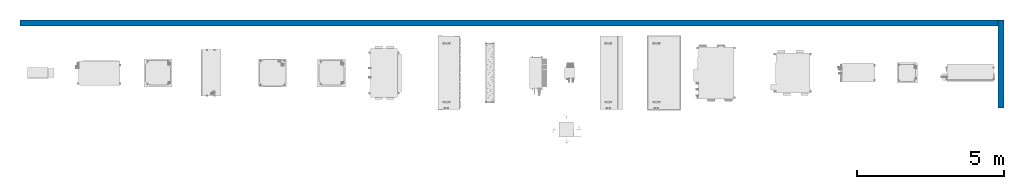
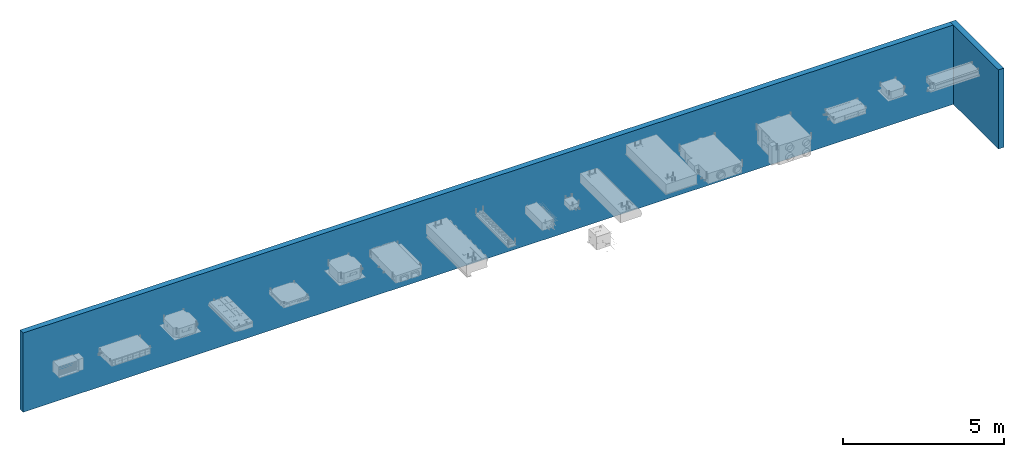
# One storey, part 1 of 5: 2 walls.
"""IFC2X3 building model written with IfcOpenShell, lengths in millimetres."""

from ifc_helpers import new_model, entity, si_unit, converted_unit, derived_unit, direction, frame, frame_2d, origin, place, context, subcontext, project, spatial, rectangle, extrude, material, layer, layer_set, layer_usage, type_object, element, save


model = new_model("IFC2X3")

# Units and contexts
model_context = context("Model", 3, precision=0.01, world=origin(), true_north=direction((6.12303176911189e-17, 1.0)))
body_context = subcontext(model_context, "Body", "Model", "MODEL_VIEW")
ifc_project = project(units=[si_unit("LENGTHUNIT", "METRE", prefix="MILLI"), si_unit("AREAUNIT", "SQUARE_METRE"), si_unit("VOLUMEUNIT", "CUBIC_METRE"), converted_unit("PLANEANGLEUNIT", "DEGREE", entity("IfcRatioMeasure", 0.0174532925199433), si_unit("PLANEANGLEUNIT", "RADIAN"), dimensions=[0, 0, 0, 0, 0, 0, 0]), si_unit("MASSUNIT", "GRAM", prefix="KILO"), derived_unit("MASSDENSITYUNIT", [(si_unit("MASSUNIT", "GRAM", prefix="KILO"), 1), (si_unit("LENGTHUNIT", "METRE"), -3)]), si_unit("TIMEUNIT", "SECOND"), si_unit("FREQUENCYUNIT", "HERTZ"), si_unit("THERMODYNAMICTEMPERATUREUNIT", "DEGREE_CELSIUS"), derived_unit("THERMALTRANSMITTANCEUNIT", [(si_unit("MASSUNIT", "GRAM", prefix="KILO"), 1), (si_unit("THERMODYNAMICTEMPERATUREUNIT", "KELVIN"), -1), (si_unit("TIMEUNIT", "SECOND"), -3)]), derived_unit("VOLUMETRICFLOWRATEUNIT", [(si_unit("LENGTHUNIT", "METRE"), 3), (si_unit("TIMEUNIT", "SECOND"), -1)]), si_unit("ELECTRICCURRENTUNIT", "AMPERE"), si_unit("ELECTRICVOLTAGEUNIT", "VOLT"), si_unit("POWERUNIT", "WATT"), si_unit("FORCEUNIT", "NEWTON", prefix="KILO"), si_unit("ILLUMINANCEUNIT", "LUX"), si_unit("LUMINOUSFLUXUNIT", "LUMEN"), si_unit("LUMINOUSINTENSITYUNIT", "CANDELA"), derived_unit("USERDEFINED", [(si_unit("MASSUNIT", "GRAM", prefix="KILO"), -1), (si_unit("LENGTHUNIT", "METRE"), -2), (si_unit("TIMEUNIT", "SECOND"), 3), (si_unit("LUMINOUSFLUXUNIT", "LUMEN"), 1)]), derived_unit("LINEARVELOCITYUNIT", [(si_unit("LENGTHUNIT", "METRE"), 1), (si_unit("TIMEUNIT", "SECOND"), -1)]), si_unit("PRESSUREUNIT", "PASCAL"), derived_unit("USERDEFINED", [(si_unit("LENGTHUNIT", "METRE"), -2), (si_unit("MASSUNIT", "GRAM", prefix="KILO"), 1), (si_unit("TIMEUNIT", "SECOND"), -2)])], contexts=[model_context])

# Site, building, storey
site_placement = place(None, origin())
site = spatial("IfcSite", under=ifc_project, at=site_placement, Name="Default", CompositionType="ELEMENT")
building_placement = place(site_placement, origin())
building = spatial("IfcBuilding", under=site, at=building_placement, CompositionType="ELEMENT")
storey_placement = place(building_placement, origin())
storey = spatial("IfcBuildingStorey", under=building, at=storey_placement, Name="Level 1", CompositionType="ELEMENT", Elevation=0.0)

# Walls
ifc_material = material(Name="RSen_x_rgb 192 192 192 T00 silver_gen")
ifc_layer = layer(ifc_material, 200.0)
ifc_layer_set = layer_set([ifc_layer], Name="Basic Wall:Wall 1")
ifc_layer_usage_1 = layer_usage(ifc_layer_set, "AXIS2", "NEGATIVE", 100.0)
wall_type = type_object("IfcWallType", Name="Basic Wall:Wall 1", PredefinedType="STANDARD", material=ifc_layer_set)
wall_1_placement = place(storey_placement, frame((24983.3783625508, -13920.0150037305, 0.0), z_axis=(0.0, 0.0, 1.0), x_axis=(0.0, -1.0, 0.0)))
element("IfcWallStandardCase", 1, at=wall_1_placement, inside=storey, type_object=wall_type, material=ifc_layer_usage_1, Name="Basic Wall:Wall 1", ObjectType="Basic Wall:Wall 1:1557", context=body_context, shape_type="SweptSolid", body=[
    extrude(rectangle(XDim=3000.0, YDim=199.999999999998, at=frame_2d((1500.0, -2.48689957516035e-13), x_axis=(-1.0, 0.0))), origin(), (0.0, 0.0, 1.0), 3000.0),
])
ifc_layer_usage_2 = layer_usage(ifc_layer_set, "AXIS2", "NEGATIVE", 100.0)
wall_2_placement = place(storey_placement, frame((24883.3783625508, -14020.0150037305, 0.0), z_axis=(0.0, 0.0, 1.0), x_axis=(-1.0, 0.0, 0.0)))
element("IfcWallStandardCase", 2, at=wall_2_placement, inside=storey, type_object=wall_type, material=ifc_layer_usage_2, Name="Basic Wall:Wall 1", ObjectType="Basic Wall:Wall 1:1557", context=body_context, shape_type="SweptSolid", body=[
    extrude(rectangle(XDim=33300.0, YDim=199.999999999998, at=frame_2d((16650.0, -1.70530256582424e-13), x_axis=(-1.0, 0.0))), origin(), (0.0, 0.0, 1.0), 3000.0),
])

save(model, "model.ifc")
